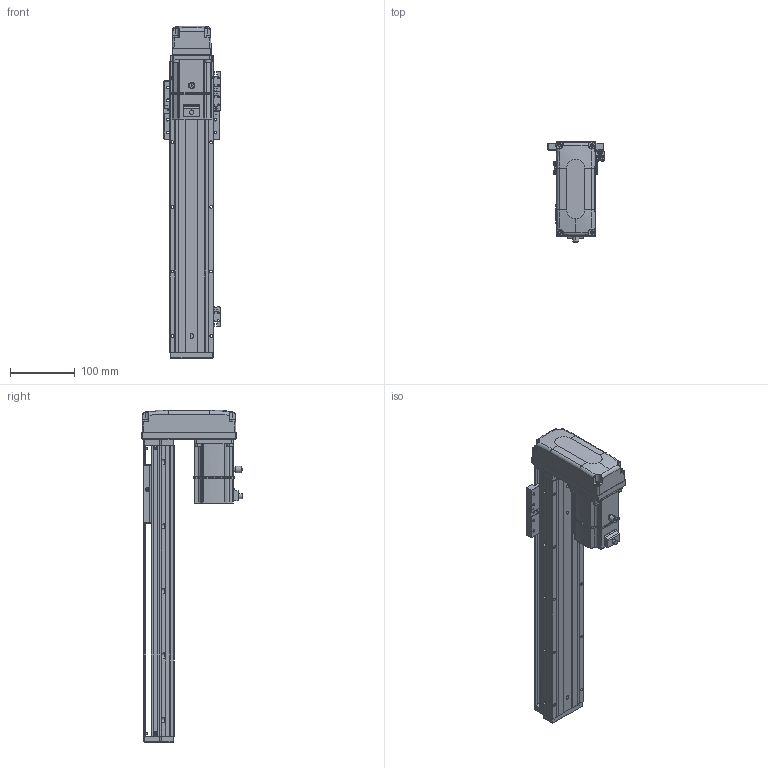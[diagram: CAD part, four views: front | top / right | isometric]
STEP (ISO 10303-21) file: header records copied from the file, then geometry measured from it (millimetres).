
FILE_DESCRIPTION (( 'STEP AP203' ), '1' );
FILE_NAME ('KTHAL60-300-BM-M20-C4L.step', '2022-12-16T02:09:59', ( '微软用户' ), ( '微软中国' ), 'SwSTEP 2.0', 'SolidWorks 2020', '' );
FILE_SCHEMA (( 'CONFIG_CONTROL_DESIGN' ));
Length unit declared in the file: millimetre
Products named in the file (17): KTHA60-005; GBT77-2000M3-3; GB¨uT 70.2-M3¡Á5_M3¡Á6; GBT 70.1-M3℅6; GBT 70.3-M3℅6; CTHA60-016; EE_SX911P_R; _X2_4E0983F1_X0_200W_1; KTHA60-001_450; CTHA60-017; CTHA60-015-4_CTHA60-015-4; KTHLA60-002; CTHA60-021; GTH80-026; KTHA60-004; GBT 70.1-M4×16; KTHAL60-300-BM-M20-C4L
Assembly tree (45 placements, depth 2):
  KTHAL60-300-BM-M20-C4L
    KTHA60-001_450
    KTHLA60-002
    KTHA60-004
    KTHA60-005
    GB¨uT 70.2-M3¡Á5_M3¡Á6  x5
    GBT 70.3-M3℅6  x4
    EE_SX911P_R  x3
    CTHA60-017  x3
    CTHA60-021  x2
    GBT 70.1-M4×16  x8
    GBT77-2000M3-3  x6
    GBT 70.1-M3℅6  x6
    CTHA60-016
    _X2_4E0983F1_X0_200W_1
    CTHA60-015-4_CTHA60-015-4
    GTH80-026
Bounding box: 87.82 x 155.2 x 514 mm (x, y, z)
Volume: 1595974.3 mm3; surface area: 329857.6 mm2
Topology: 48 solids, 48 shells, 2311 faces, 5492 edges, 3373 vertices
Faces by surface type: plane 1235, cylinder 611, cone 266, bspline 103, torus 82, sphere 14
Entity records: 44601 total; most frequent: CARTESIAN_POINT 10042, DIRECTION 6701, ORIENTED_EDGE 6608, EDGE_CURVE 3304, AXIS2_PLACEMENT_3D 2316, LINE 2069, VECTOR 2069, VERTEX_POINT 2057
